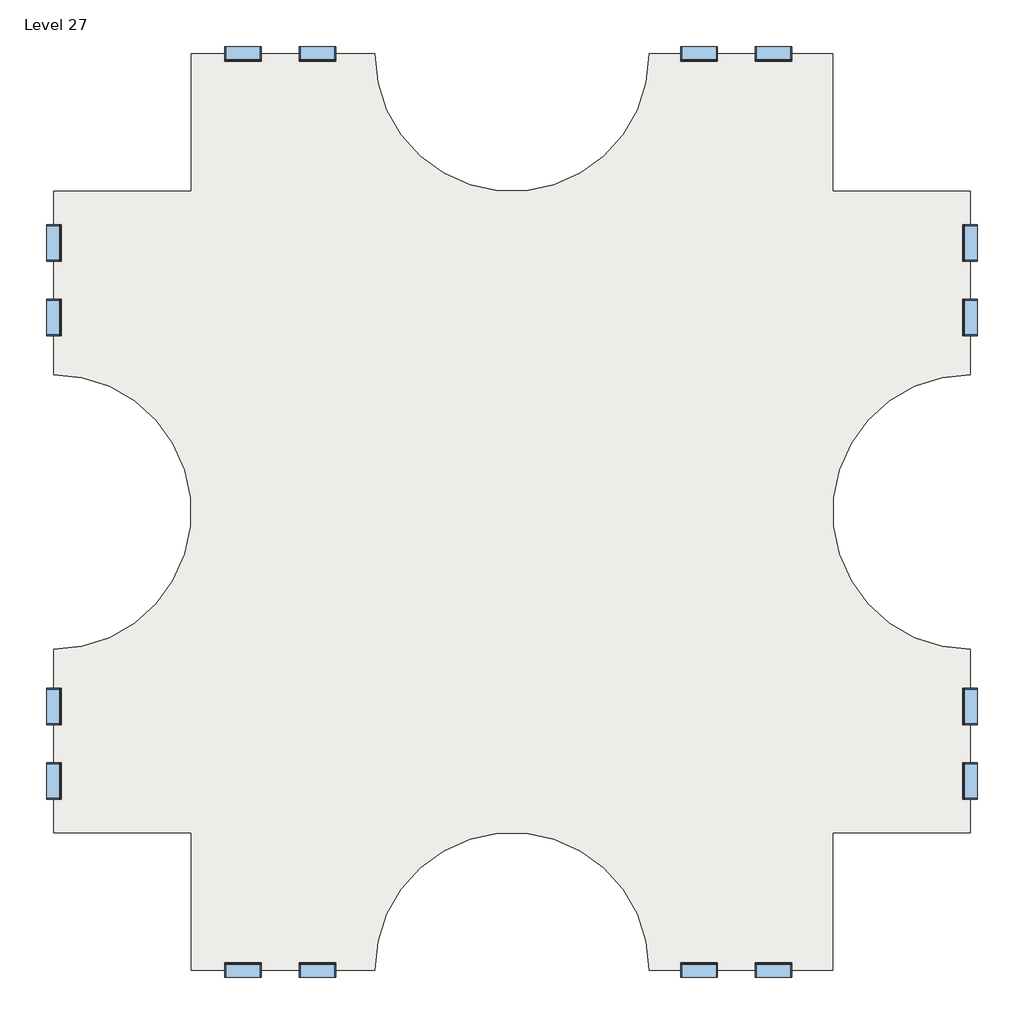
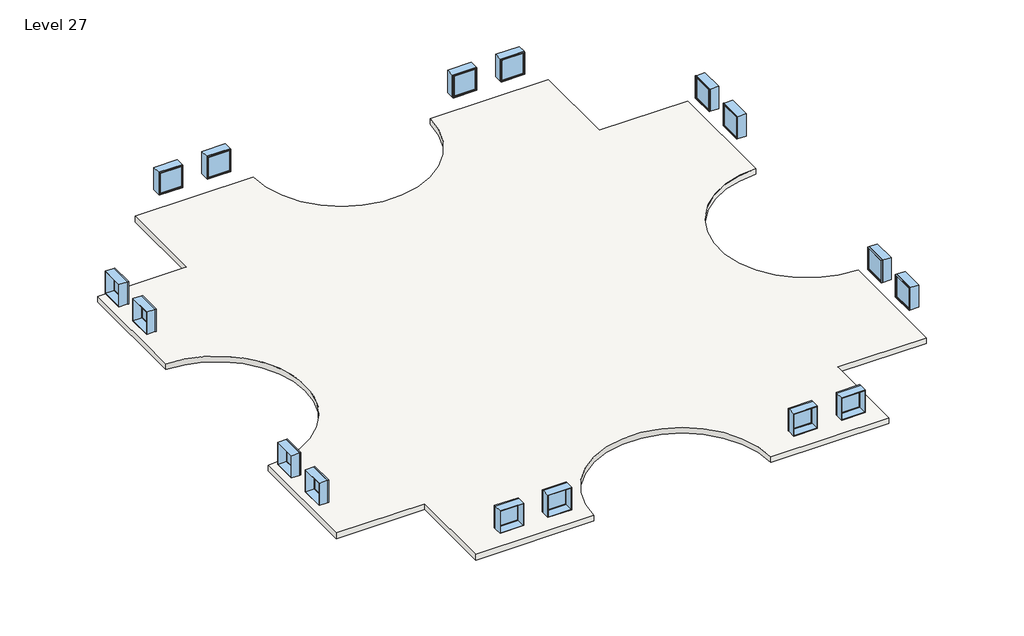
# One storey: 16 windows, 3 slabs.
"""IFC4 building model written with IfcOpenShell, lengths in millimetres."""

import ifcopenshell
import ifcopenshell.guid

model = None  # the IFC model being written
_history = None  # IfcOwnerHistory: only IFC2X3 demands one
_inside = {}  # id of a spatial element -> (the spatial element, [elements in it])
_under = {}  # id of a project, library or spatial element -> (it, [spatial elements below it])
_declared = {}  # id of a project -> (the project, [libraries it declares])
_typed = {}  # id of a type object -> (the type object, [elements of that type])
_made_of = {}  # id of a material, layer set ... -> (it, [elements and type objects made of it])


def new_model(schema):
    """Start an empty IFC model of exactly this schema.

    Asked for "IFC4X3", IfcOpenShell would pick the latest addendum, in which some entities
    have other attributes; the version numbers below select the first issue.
    IFC2X3 requires an IfcOwnerHistory on every rooted entity: one is made here for all.
    """
    global model, _history
    if schema == "IFC4X3":
        model = ifcopenshell.file(schema_version=(4, 3, 0, 0))
    else:
        model = ifcopenshell.file(schema=schema)
    _inside.clear()
    _under.clear()
    _declared.clear()
    _typed.clear()
    _made_of.clear()
    _history = None
    if model.schema == "IFC2X3":
        org = make("IfcOrganization", Name="unknown")
        user = make(
            "IfcPersonAndOrganization",
            ThePerson=make("IfcPerson", FamilyName="unknown"),
            TheOrganization=org,
        )
        app = make(
            "IfcApplication",
            ApplicationDeveloper=org,
            Version="unknown",
            ApplicationFullName="unknown",
            ApplicationIdentifier="unknown",
        )
        _history = make(
            "IfcOwnerHistory",
            OwningUser=user,
            OwningApplication=app,
            ChangeAction="ADDED",
            CreationDate=0,
        )
    return model


def make(cls, **values):
    """One entity of the class cls with the attributes given. An attribute that is None is left unset."""
    return model.create_entity(
        cls, **{name: value for name, value in values.items() if value is not None}
    )


def rooted(cls, **values):
    """An entity with a GlobalId (a new one), such as an element, a storey or a relation."""
    return make(cls, GlobalId=ifcopenshell.guid.new(), OwnerHistory=_history, **values)


def si_unit(unit_type, name, prefix=None):
    """IfcSIUnit, for example si_unit("LENGTHUNIT", "METRE", prefix="MILLI")."""
    return make("IfcSIUnit", UnitType=unit_type, Prefix=prefix, Name=name)


def assignment(units):
    """IfcUnitAssignment: the units of a project."""
    return None if units is None else make("IfcUnitAssignment", Units=units)


def point(xyz):
    """IfcCartesianPoint."""
    return None if xyz is None else make("IfcCartesianPoint", Coordinates=xyz)


def direction(xyz):
    """IfcDirection."""
    return None if xyz is None else make("IfcDirection", DirectionRatios=xyz)


def frame(location, z_axis=None, x_axis=None):
    """IfcAxis2Placement3D, a coordinate frame: its origin and axes. An axis left out is left unset."""
    return make(
        "IfcAxis2Placement3D",
        Location=point(location),
        Axis=direction(z_axis),
        RefDirection=direction(x_axis),
    )


def frame_2d(location, x_axis=None):
    """IfcAxis2Placement2D, a coordinate frame in the plane: its origin and x axis."""
    return make(
        "IfcAxis2Placement2D", Location=point(location), RefDirection=direction(x_axis)
    )


def origin():
    """The frame at (0, 0, 0) with its axes left unset."""
    return frame((0.0, 0.0, 0.0))


def place(relative_to, where):
    """IfcLocalPlacement: puts the frame where relative to a parent placement (None: the world)."""
    return make(
        "IfcLocalPlacement", PlacementRelTo=relative_to, RelativePlacement=where
    )


def context(
    kind, dimensions, precision=None, world=None, true_north=None, identifier=None
):
    """IfcGeometricRepresentationContext, for example the 3D "Model" context."""
    return make(
        "IfcGeometricRepresentationContext",
        ContextIdentifier=identifier,
        ContextType=kind,
        CoordinateSpaceDimension=dimensions,
        Precision=precision,
        WorldCoordinateSystem=world,
        TrueNorth=true_north,
    )


def project(units=None, contexts=None):
    """IfcProject with its units and contexts."""
    return rooted(
        "IfcProject",
        Name="project",
        RepresentationContexts=contexts,
        UnitsInContext=assignment(units),
    )


def spatial(cls, under=None, at=None, **own):
    """A site, building, storey or space (cls), placed at a placement, below another one or the project."""
    s = rooted(cls, ObjectPlacement=at, **own)
    if under is not None:
        _under.setdefault(under.id(), (under, []))[1].append(s)
    return s


def polyline(points):
    """IfcPolyline through the points."""
    return make("IfcPolyline", Points=[point(p) for p in points])


def circle_curve(where, radius):
    """IfcCircle in the frame where."""
    return make("IfcCircle", Position=where, Radius=radius)


def trimmed(basis, trim1, trim2, sense, master):
    """IfcTrimmedCurve: the piece of a basis curve between two trims."""
    return make(
        "IfcTrimmedCurve",
        BasisCurve=basis,
        Trim1=trim1,
        Trim2=trim2,
        SenseAgreement=sense,
        MasterRepresentation=master,
    )


def segment(curve, same_sense, transition):
    """IfcCompositeCurveSegment."""
    return make(
        "IfcCompositeCurveSegment",
        Transition=transition,
        SameSense=same_sense,
        ParentCurve=curve,
    )


def composite_curve(segments, self_intersect=None):
    """IfcCompositeCurve: segments joined end to end."""
    return make("IfcCompositeCurve", Segments=segments, SelfIntersect=self_intersect)


def outline(outer, holes=None, kind="AREA"):
    """IfcArbitraryClosedProfileDef: a profile drawn as a closed curve; with holes, ...WithVoids."""
    if holes is None:
        return make("IfcArbitraryClosedProfileDef", ProfileType=kind, OuterCurve=outer)
    return make(
        "IfcArbitraryProfileDefWithVoids",
        ProfileType=kind,
        OuterCurve=outer,
        InnerCurves=holes,
    )


def extrude(swept, where, along, depth):
    """IfcExtrudedAreaSolid: the profile swept, set in the frame where, extruded along a direction by depth."""
    return make(
        "IfcExtrudedAreaSolid",
        SweptArea=swept,
        Position=where,
        ExtrudedDirection=direction(along),
        Depth=depth,
    )


def shape(context_of_items, identifier, shape_type, items):
    """IfcShapeRepresentation: the items that make up one representation, for example the "Body"."""
    return make(
        "IfcShapeRepresentation",
        ContextOfItems=context_of_items,
        RepresentationIdentifier=identifier,
        RepresentationType=shape_type,
        Items=items,
    )


def source(mapping_origin, context_of_items, identifier, shape_type, items):
    """IfcRepresentationMap: a shape defined once, which mapped items show again and again."""
    return make(
        "IfcRepresentationMap",
        MappingOrigin=mapping_origin,
        MappedRepresentation=shape(context_of_items, identifier, shape_type, items),
    )


def transform(
    local_origin,
    x_axis=None,
    y_axis=None,
    z_axis=None,
    scale=None,
    scale2=None,
    scale3=None,
    uniform=True,
):
    """IfcCartesianTransformationOperator3D, or its non-uniform kind. x_axis, y_axis, z_axis: its Axis1, 2, 3."""
    if uniform:
        return make(
            "IfcCartesianTransformationOperator3D",
            Axis1=direction(x_axis),
            Axis2=direction(y_axis),
            LocalOrigin=point(local_origin),
            Scale=scale,
            Axis3=direction(z_axis),
        )
    return make(
        "IfcCartesianTransformationOperator3DnonUniform",
        Axis1=direction(x_axis),
        Axis2=direction(y_axis),
        LocalOrigin=point(local_origin),
        Scale=scale,
        Axis3=direction(z_axis),
        Scale2=scale2,
        Scale3=scale3,
    )


def mapped(mapping_source, mapping_target):
    """IfcMappedItem: shows the shape of a source again, moved by a transform."""
    return make(
        "IfcMappedItem", MappingSource=mapping_source, MappingTarget=mapping_target
    )


def made_of(thing, what):
    """Note that an element or type object is made of a material, layer set ...; save() writes the relation."""
    if what is not None:
        _made_of.setdefault(what.id(), (what, []))[1].append(thing)
    return thing


def element(
    cls,
    number,
    at=None,
    inside=None,
    cuts=None,
    type_object=None,
    material=None,
    context=None,
    identifier="Body",
    shape_type=None,
    held_by="IfcProductDefinitionShape",
    body=None,
    shapes=None,
    **own,
):
    """One element of the class cls, such as IfcWall. Its Tag is "e" and its number.

    at: its placement. inside: the storey or other place that contains it. cuts: it is an
    opening in that element (IfcRelVoidsElement). A single representation is given by context,
    identifier, shape_type and body (its items); several are given by shapes. held_by: the class
    of the entity that holds the representations. save() writes the other relations.
    """
    e = rooted(cls, Tag="e%d" % number, ObjectPlacement=at, **own)
    if body is not None:
        shapes = [shape(context, identifier, shape_type, body)]
    if shapes is not None:
        e.Representation = make(held_by, Representations=shapes)
    if inside is not None:
        _inside.setdefault(inside.id(), (inside, []))[1].append(e)
    if cuts is not None:
        rooted(
            "IfcRelVoidsElement", RelatingBuildingElement=cuts, RelatedOpeningElement=e
        )
    if type_object is not None:
        _typed.setdefault(type_object.id(), (type_object, []))[1].append(e)
    return made_of(e, material)


def aggregate(whole, parts):
    """IfcRelAggregates: a whole, such as a stair, and the parts it consists of."""
    return rooted("IfcRelAggregates", RelatingObject=whole, RelatedObjects=parts)


def save(model, path):
    """Write the relations noted so far, then the file.

    IfcRelAggregates (storeys below a building ...), IfcRelContainedInSpatialStructure (elements
    in a storey), IfcRelDefinesByType, IfcRelAssociatesMaterial and IfcRelDeclares: one each for
    every whole, place, type object, material and project.
    """
    for whole, parts in _under.values():
        aggregate(whole, parts)
    for where, things in _inside.values():
        rooted(
            "IfcRelContainedInSpatialStructure",
            RelatedElements=things,
            RelatingStructure=where,
        )
    for kind, things in _typed.values():
        rooted("IfcRelDefinesByType", RelatedObjects=things, RelatingType=kind)
    for what, things in _made_of.values():
        rooted("IfcRelAssociatesMaterial", RelatedObjects=things, RelatingMaterial=what)
    for by, libraries in _declared.values():
        rooted("IfcRelDeclares", RelatingContext=by, RelatedDefinitions=libraries)
    model.write(path)


def window_d0035ecf(model_context):
    return source(origin(), model_context, "Body", "SweptSolid", [
        extrude(outline(polyline([(508.0, 200.025), (-584.2, 200.025), (-584.2, 212.725), (508.0, 212.725), (508.0, 200.025)])), frame((0.0, 0.0, 977.9), z_axis=(0.0, 0.0, 1.0), x_axis=(1.0, 0.0, 0.0)), (0.0, 0.0, 1.0), 1092.2),
        extrude(outline(polyline([(2114.55, -628.65), (933.45, -628.65), (933.45, 552.45), (2114.55, 552.45), (2114.55, -628.65)]), holes=[polyline([(2070.1, -584.2), (2070.1, 508.0), (977.9, 508.0), (977.9, -584.2), (2070.1, -584.2)])]), frame((0.0, 184.15, 0.0), z_axis=(0.0, 1.0, 0.0), x_axis=(0.0, 0.0, 1.0)), (0.0, 0.0, 1.0), 44.45),
        extrude(outline(polyline([(2133.6, -647.7), (914.4, -647.7), (914.4, 571.5), (2133.6, 571.5), (2133.6, -647.7)]), holes=[polyline([(2101.85, -615.95), (2101.85, 539.75), (946.15, 539.75), (946.15, -615.95), (2101.85, -615.95)])]), frame((0.0, -247.65, 0.0), z_axis=(0.0, 1.0, 0.0), x_axis=(0.0, 0.0, 1.0)), (0.0, 0.0, 1.0), 431.8),
        extrude(outline(polyline([(2133.6, 571.5), (2133.6, -647.7), (914.4, -647.7), (914.4, 571.5), (2133.6, 571.5)]), holes=[polyline([(2114.55, 552.45), (933.45, 552.45), (933.45, -628.65), (2114.55, -628.65), (2114.55, 552.45)])]), frame((0.0, 184.15, 0.0), z_axis=(0.0, 1.0, 0.0), x_axis=(0.0, 0.0, 1.0)), (0.0, 0.0, 1.0), 63.5),
    ])


def window_d434eb62(model_context):
    return source(origin(), model_context, "Body", "SweptSolid", [
        extrude(outline(polyline([(508.0, -200.025), (508.0, -212.725), (-584.2, -212.725), (-584.2, -200.025), (508.0, -200.025)])), frame((0.0, 0.0, 977.9), z_axis=(0.0, 0.0, 1.0), x_axis=(1.0, 0.0, 0.0)), (0.0, 0.0, 1.0), 1092.2),
        extrude(outline(polyline([(2114.55, -628.65), (933.45, -628.65), (933.45, 552.45), (2114.55, 552.45), (2114.55, -628.65)]), holes=[polyline([(2070.1, -584.2), (2070.1, 508.0), (977.9, 508.0), (977.9, -584.2), (2070.1, -584.2)])]), frame((0.0, -228.6, 0.0), z_axis=(0.0, 1.0, 0.0), x_axis=(0.0, 0.0, 1.0)), (0.0, 0.0, 1.0), 44.45),
        extrude(outline(polyline([(2133.6, -647.7), (914.4, -647.7), (914.4, 571.5), (2133.6, 571.5), (2133.6, -647.7)]), holes=[polyline([(2101.85, -615.95), (2101.85, 539.75), (946.15, 539.75), (946.15, -615.95), (2101.85, -615.95)])]), frame((0.0, -184.15, 0.0), z_axis=(0.0, 1.0, 0.0), x_axis=(0.0, 0.0, 1.0)), (0.0, 0.0, 1.0), 431.8),
        extrude(outline(polyline([(2133.6, 571.5), (2133.6, -647.7), (914.4, -647.7), (914.4, 571.5), (2133.6, 571.5)]), holes=[polyline([(2114.55, 552.45), (933.45, 552.45), (933.45, -628.65), (2114.55, -628.65), (2114.55, 552.45)])]), frame((0.0, -247.65, 0.0), z_axis=(0.0, 1.0, 0.0), x_axis=(0.0, 0.0, 1.0)), (0.0, 0.0, 1.0), 63.5),
    ])


model = new_model("IFC4")

# Units and contexts
model_context = context("Model", 3, world=origin())
ifc_project = project(units=[si_unit("LENGTHUNIT", "METRE", prefix="MILLI")], contexts=[model_context])

# Site, building, storey
site = spatial("IfcSite", under=ifc_project)
building = spatial("IfcBuilding", under=site)
storey = spatial("IfcBuildingStorey", under=building, Name="Level 27", Elevation=79248.0)

# Slabs
placement = place(None, origin())
element("IfcSlab", 1, ObjectType="Generic - 12\"", at=placement, inside=storey, context=model_context, shape_type="SweptSolid", body=[
    extrude(outline(composite_curve([segment(polyline([(-7150.3629456, 4479.6634547), (-7150.3629456, 9051.6634547), (-1054.3629456, 9051.6634547)]), True, "CONTINUOUS"), segment(trimmed(circle_curve(frame_2d((3517.6370544, 9051.6634547)), 4572.0), [point((-1054.3629456, 9051.6634547))], [point((8089.6370544, 9051.6634547))], True, "CARTESIAN"), True, "CONTINUOUS"), segment(polyline([(8089.6370544, 9051.6634547), (14185.6370544, 9051.6634547), (14185.6370544, 4479.6634547), (18757.6370544, 4479.6634547), (18757.6370544, -1616.3365453)]), True, "CONTINUOUS"), segment(trimmed(circle_curve(frame_2d((18757.6370544, -6188.3365453)), 4572.0), [point((18757.6370544, -1616.3365453))], [point((18757.6370544, -10760.3365453))], True, "CARTESIAN"), True, "CONTINUOUS"), segment(polyline([(18757.6370544, -10760.3365453), (18757.6370544, -16856.3365453), (14185.6370544, -16856.3365453), (14185.6370544, -21428.3365453), (8089.6370544, -21428.3365453)]), True, "CONTINUOUS"), segment(trimmed(circle_curve(frame_2d((3517.6370544, -21428.3365453)), 4572.0), [point((8089.6370544, -21428.3365453))], [point((-1054.3629456, -21428.3365453))], True, "CARTESIAN"), True, "CONTINUOUS"), segment(polyline([(-1054.3629456, -21428.3365453), (-7150.3629456, -21428.3365453), (-7150.3629456, -16856.3365453), (-11722.3629456, -16856.3365453), (-11722.3629456, -10760.3365453)]), True, "CONTINUOUS"), segment(trimmed(circle_curve(frame_2d((-11722.3629456, -6188.3365453)), 4572.0), [point((-11722.3629456, -10760.3365453))], [point((-11722.3629456, -1616.3365453))], True, "CARTESIAN"), True, "CONTINUOUS"), segment(polyline([(-11722.3629456, -1616.3365453), (-11722.3629456, 4479.6634547), (-7150.3629456, 4479.6634547)]), True, "CONTINUOUS")], self_intersect=False)), frame((0.0, 0.0, 78943.2), z_axis=(0.0, 0.0, 1.0), x_axis=(1.0, 0.0, 0.0)), (0.0, 0.0, 1.0), 304.8),
])
element("IfcSlab", 2, ObjectType="Generic - 12\"", at=placement, inside=storey, context=model_context, shape_type="SweptSolid", body=[
    extrude(outline(composite_curve([segment(polyline([(-7150.3629456, 4479.6634547), (-7150.3629456, 9051.6634547), (-1054.3629456, 9051.6634547)]), True, "CONTINUOUS"), segment(trimmed(circle_curve(frame_2d((3517.6370544, 9051.6634547)), 4572.0), [point((-1054.3629456, 9051.6634547))], [point((8089.6370544, 9051.6634547))], True, "CARTESIAN"), True, "CONTINUOUS"), segment(polyline([(8089.6370544, 9051.6634547), (14185.6370544, 9051.6634547), (14185.6370544, 4479.6634547), (18757.6370544, 4479.6634547), (18757.6370544, -1616.3365453)]), True, "CONTINUOUS"), segment(trimmed(circle_curve(frame_2d((18757.6370544, -6188.3365453)), 4572.0), [point((18757.6370544, -1616.3365453))], [point((18757.6370544, -10760.3365453))], True, "CARTESIAN"), True, "CONTINUOUS"), segment(polyline([(18757.6370544, -10760.3365453), (18757.6370544, -16856.3365453), (14185.6370544, -16856.3365453), (14185.6370544, -21428.3365453), (8089.6370544, -21428.3365453)]), True, "CONTINUOUS"), segment(trimmed(circle_curve(frame_2d((3517.6370544, -21428.3365453)), 4572.0), [point((8089.6370544, -21428.3365453))], [point((-1054.3629456, -21428.3365453))], True, "CARTESIAN"), True, "CONTINUOUS"), segment(polyline([(-1054.3629456, -21428.3365453), (-7150.3629456, -21428.3365453), (-7150.3629456, -16856.3365453), (-11722.3629456, -16856.3365453), (-11722.3629456, -10760.3365453)]), True, "CONTINUOUS"), segment(trimmed(circle_curve(frame_2d((-11722.3629456, -6188.3365453)), 4572.0), [point((-11722.3629456, -10760.3365453))], [point((-11722.3629456, -1616.3365453))], True, "CARTESIAN"), True, "CONTINUOUS"), segment(polyline([(-11722.3629456, -1616.3365453), (-11722.3629456, 4479.6634547), (-7150.3629456, 4479.6634547)]), True, "CONTINUOUS")], self_intersect=False)), frame((0.0, 0.0, 78943.2), z_axis=(0.0, 0.0, 1.0), x_axis=(1.0, 0.0, 0.0)), (0.0, 0.0, 1.0), 304.8),
])
element("IfcSlab", 3, ObjectType="Generic - 12\"", at=placement, inside=storey, context=model_context, shape_type="SweptSolid", body=[
    extrude(outline(composite_curve([segment(polyline([(-7150.3629456, 4479.6634547), (-7150.3629456, 9051.6634547), (-1054.3629456, 9051.6634547)]), True, "CONTINUOUS"), segment(trimmed(circle_curve(frame_2d((3517.6370544, 9051.6634547)), 4572.0), [point((-1054.3629456, 9051.6634547))], [point((8089.6370544, 9051.6634547))], True, "CARTESIAN"), True, "CONTINUOUS"), segment(polyline([(8089.6370544, 9051.6634547), (14185.6370544, 9051.6634547), (14185.6370544, 4479.6634547), (18757.6370544, 4479.6634547), (18757.6370544, -1616.3365453)]), True, "CONTINUOUS"), segment(trimmed(circle_curve(frame_2d((18757.6370544, -6188.3365453)), 4572.0), [point((18757.6370544, -1616.3365453))], [point((18757.6370544, -10760.3365453))], True, "CARTESIAN"), True, "CONTINUOUS"), segment(polyline([(18757.6370544, -10760.3365453), (18757.6370544, -16856.3365453), (14185.6370544, -16856.3365453), (14185.6370544, -21428.3365453), (8089.6370544, -21428.3365453)]), True, "CONTINUOUS"), segment(trimmed(circle_curve(frame_2d((3517.6370544, -21428.3365453)), 4572.0), [point((8089.6370544, -21428.3365453))], [point((-1054.3629456, -21428.3365453))], True, "CARTESIAN"), True, "CONTINUOUS"), segment(polyline([(-1054.3629456, -21428.3365453), (-7150.3629456, -21428.3365453), (-7150.3629456, -16856.3365453), (-11722.3629456, -16856.3365453), (-11722.3629456, -10760.3365453)]), True, "CONTINUOUS"), segment(trimmed(circle_curve(frame_2d((-11722.3629456, -6188.3365453)), 4572.0), [point((-11722.3629456, -10760.3365453))], [point((-11722.3629456, -1616.3365453))], True, "CARTESIAN"), True, "CONTINUOUS"), segment(polyline([(-11722.3629456, -1616.3365453), (-11722.3629456, 4479.6634547), (-7150.3629456, 4479.6634547)]), True, "CONTINUOUS")], self_intersect=False)), frame((0.0, 0.0, 78943.2), z_axis=(0.0, 0.0, 1.0), x_axis=(1.0, 0.0, 0.0)), (0.0, 0.0, 1.0), 304.8),
])

# Windows
window_shape = window_d0035ecf(model_context)
element("IfcWindow", 4, ObjectType="Fixed : 48\" x 48\"", at=placement, inside=storey, context=model_context, shape_type="MappedRepresentation", body=[
    mapped(window_shape, transform((-11719.1879456, 247.3884547, 79248.0), x_axis=(0.0, -1.0, 0.0), y_axis=(1.0, 0.0, 0.0), z_axis=(0.0, 0.0, 1.0))),
])
element("IfcWindow", 5, ObjectType="Fixed : 48\" x 48\"", at=placement, inside=storey, context=model_context, shape_type="MappedRepresentation", body=[
    mapped(window_shape, transform((-5469.1993281, 9048.4884547, 79248.0), x_axis=(-1.0, 0.0, 0.0), y_axis=(0.0, -1.0, 0.0), z_axis=(0.0, 0.0, 1.0))),
])
element("IfcWindow", 6, ObjectType="Fixed : 48\" x 48\"", at=placement, inside=storey, context=model_context, shape_type="MappedRepresentation", body=[
    mapped(window_shape, transform((-11719.1879456, -15175.1729277, 79248.0), x_axis=(0.0, -1.0, 0.0), y_axis=(1.0, 0.0, 0.0), z_axis=(0.0, 0.0, 1.0))),
])
element("IfcWindow", 7, ObjectType="Fixed : 48\" x 48\"", at=placement, inside=storey, context=model_context, shape_type="MappedRepresentation", body=[
    mapped(window_shape, transform((-2918.0879456, -21425.1615453, 79248.0), x_axis=(1.0, 0.0, 0.0), y_axis=(0.0, 1.0, 0.0), z_axis=(0.0, 0.0, 1.0))),
])
element("IfcWindow", 8, ObjectType="Fixed : 48\" x 48\"", at=placement, inside=storey, context=model_context, shape_type="MappedRepresentation", body=[
    mapped(window_shape, transform((18754.4620544, 2798.4998372, 79248.0), x_axis=(0.0, 1.0, 0.0), y_axis=(-1.0, 0.0, 0.0), z_axis=(0.0, 0.0, 1.0))),
])
element("IfcWindow", 9, ObjectType="Fixed : 48\" x 48\"", at=placement, inside=storey, context=model_context, shape_type="MappedRepresentation", body=[
    mapped(window_shape, transform((9705.7120544, 9048.4884547, 79248.0), x_axis=(-1.0, 0.0, 0.0), y_axis=(0.0, -1.0, 0.0), z_axis=(0.0, 0.0, 1.0))),
])
element("IfcWindow", 10, ObjectType="Fixed : 48\" x 48\"", at=placement, inside=storey, context=model_context, shape_type="MappedRepresentation", body=[
    mapped(window_shape, transform((18754.4620544, -12624.0615453, 79248.0), x_axis=(0.0, 1.0, 0.0), y_axis=(-1.0, 0.0, 0.0), z_axis=(0.0, 0.0, 1.0))),
])
element("IfcWindow", 11, ObjectType="Fixed : 48\" x 48\"", at=placement, inside=storey, context=model_context, shape_type="MappedRepresentation", body=[
    mapped(window_shape, transform((12256.8234368, -21425.1615453, 79248.0), x_axis=(1.0, 0.0, 0.0), y_axis=(0.0, 1.0, 0.0), z_axis=(0.0, 0.0, 1.0))),
])
window_2_shape = window_d434eb62(model_context)
element("IfcWindow", 12, ObjectType="Fixed : 48\" x 48\"", at=placement, inside=storey, context=model_context, shape_type="MappedRepresentation", body=[
    mapped(window_2_shape, transform((-11719.1879456, 2798.4998372, 79248.0), x_axis=(0.0, 1.0, 0.0), y_axis=(-1.0, 0.0, 0.0), z_axis=(0.0, 0.0, 1.0))),
])
element("IfcWindow", 13, ObjectType="Fixed : 48\" x 48\"", at=placement, inside=storey, context=model_context, shape_type="MappedRepresentation", body=[
    mapped(window_2_shape, transform((-2918.0879456, 9048.4884547, 79248.0), x_axis=(1.0, 0.0, 0.0), y_axis=(0.0, 1.0, 0.0), z_axis=(0.0, 0.0, 1.0))),
])
element("IfcWindow", 14, ObjectType="Fixed : 48\" x 48\"", at=placement, inside=storey, context=model_context, shape_type="MappedRepresentation", body=[
    mapped(window_2_shape, transform((-11719.1879456, -12624.0615453, 79248.0), x_axis=(0.0, 1.0, 0.0), y_axis=(-1.0, 0.0, 0.0), z_axis=(0.0, 0.0, 1.0))),
])
element("IfcWindow", 15, ObjectType="Fixed : 48\" x 48\"", at=placement, inside=storey, context=model_context, shape_type="MappedRepresentation", body=[
    mapped(window_2_shape, transform((-5469.1993281, -21425.1615453, 79248.0), x_axis=(-1.0, 0.0, 0.0), y_axis=(0.0, -1.0, 0.0), z_axis=(0.0, 0.0, 1.0))),
])
element("IfcWindow", 16, ObjectType="Fixed : 48\" x 48\"", at=placement, inside=storey, context=model_context, shape_type="MappedRepresentation", body=[
    mapped(window_2_shape, transform((18754.4620544, 247.3884547, 79248.0), x_axis=(0.0, -1.0, 0.0), y_axis=(1.0, 0.0, 0.0), z_axis=(0.0, 0.0, 1.0))),
])
element("IfcWindow", 17, ObjectType="Fixed : 48\" x 48\"", at=placement, inside=storey, context=model_context, shape_type="MappedRepresentation", body=[
    mapped(window_2_shape, transform((12256.8234368, 9048.4884547, 79248.0), x_axis=(1.0, 0.0, 0.0), y_axis=(0.0, 1.0, 0.0), z_axis=(0.0, 0.0, 1.0))),
])
element("IfcWindow", 18, ObjectType="Fixed : 48\" x 48\"", at=placement, inside=storey, context=model_context, shape_type="MappedRepresentation", body=[
    mapped(window_2_shape, transform((18754.4620544, -15175.1729277, 79248.0), x_axis=(0.0, -1.0, 0.0), y_axis=(1.0, 0.0, 0.0), z_axis=(0.0, 0.0, 1.0))),
])
element("IfcWindow", 19, ObjectType="Fixed : 48\" x 48\"", at=placement, inside=storey, context=model_context, shape_type="MappedRepresentation", body=[
    mapped(window_2_shape, transform((9705.7120544, -21425.1615453, 79248.0), x_axis=(-1.0, 0.0, 0.0), y_axis=(0.0, -1.0, 0.0), z_axis=(0.0, 0.0, 1.0))),
])

save(model, "model.ifc")
